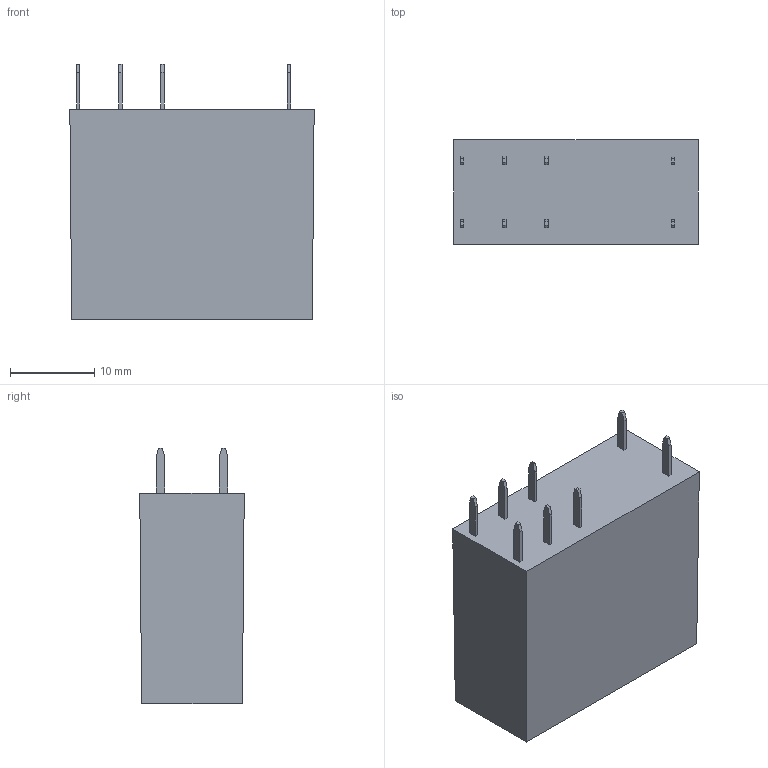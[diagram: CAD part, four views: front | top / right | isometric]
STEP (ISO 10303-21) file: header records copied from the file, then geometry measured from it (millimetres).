
FILE_DESCRIPTION(('STEP AP214'),'2;1');
FILE_NAME('4052-skin.stp','2010-04-16T16:37:16',(''),(''),'2007.1.106','THINKDESIGN','');
FILE_SCHEMA(('AUTOMOTIVE_DESIGN'));
Length unit declared in the file: millimetre
Products named in the file (1): None
Bounding box: 29 x 12.4 x 30.3 mm (x, y, z)
Surface area: 2866 mm2 (no closed solid volume)
Topology: 0 solids, 0 shells, 65 faces, 328 edges, 328 vertices
Faces by surface type: plane 47, bspline 17, cylinder 1
Full cylindrical faces by diameter (mm): 1.8 x1
Entity records: 3500 total; most frequent: CARTESIAN_POINT 1146, DIRECTION 352, COMPOSITE_CURVE_SEGMENT 328, TRIMMED_CURVE 252, VECTOR 248, LINE 248, OUTER_BOUNDARY_CURVE 65, CURVE_BOUNDED_SURFACE 65
